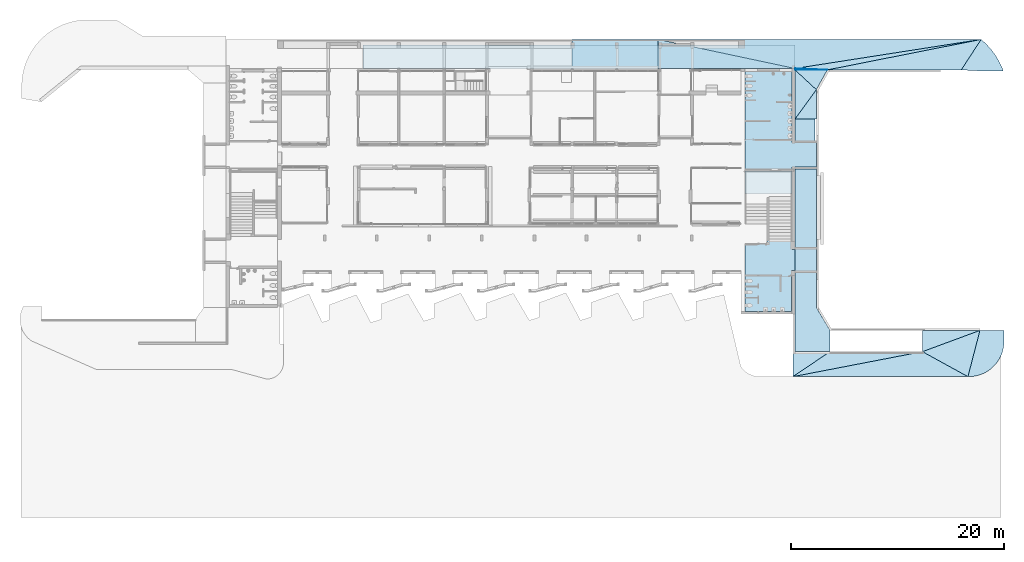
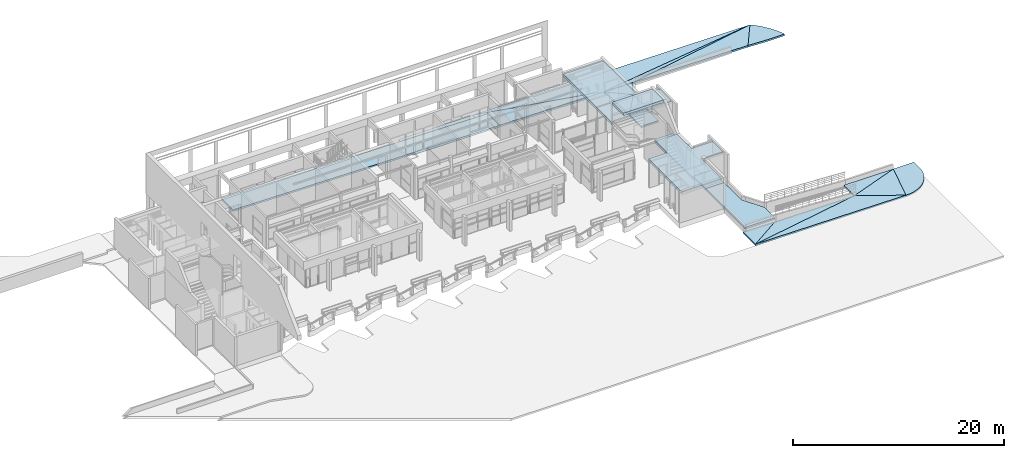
# One storey, part 46 of 117: 23 slabs, 5 elements without a shape of their own.
"""IFC4 building model written with IfcOpenShell, lengths in metres."""

from ifc_helpers import new_model, entity, si_unit, converted_unit, derived_unit, direction, frame, origin, place, context, subcontext, project, spatial, line, arc, indexed_curve, outline, extrude, material, constituent, constituent_set, type_object, element, aggregate, save


model = new_model("IFC4")

# Units and contexts
model_context = context("Model", 3, precision=1e-05, world=origin(), true_north=direction((6.123031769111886e-17, 1.0)))
body_context = subcontext(model_context, "Body", "Model", "MODEL_VIEW")
ifc_project = project(units=[si_unit("LENGTHUNIT", "METRE"), si_unit("AREAUNIT", "SQUARE_METRE"), si_unit("VOLUMEUNIT", "CUBIC_METRE"), converted_unit("PLANEANGLEUNIT", "DEGREE", entity("IfcRatioMeasure", 0.017453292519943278), si_unit("PLANEANGLEUNIT", "RADIAN"), dimensions=[0, 0, 0, 0, 0, 0, 0]), si_unit("MASSUNIT", "GRAM", prefix="KILO"), derived_unit("MASSDENSITYUNIT", [(si_unit("MASSUNIT", "GRAM", prefix="KILO"), 1), (si_unit("LENGTHUNIT", "METRE"), -3)]), derived_unit("MOMENTOFINERTIAUNIT", [(si_unit("LENGTHUNIT", "METRE"), 4)]), si_unit("TIMEUNIT", "SECOND"), si_unit("FREQUENCYUNIT", "HERTZ"), si_unit("THERMODYNAMICTEMPERATUREUNIT", "DEGREE_CELSIUS"), derived_unit("THERMALTRANSMITTANCEUNIT", [(si_unit("MASSUNIT", "GRAM", prefix="KILO"), 1), (si_unit("THERMODYNAMICTEMPERATUREUNIT", "KELVIN"), -1), (si_unit("TIMEUNIT", "SECOND"), -3)]), derived_unit("VOLUMETRICFLOWRATEUNIT", [(si_unit("LENGTHUNIT", "METRE"), 3), (si_unit("TIMEUNIT", "SECOND"), -1)]), derived_unit("MASSFLOWRATEUNIT", [(si_unit("MASSUNIT", "GRAM", prefix="KILO"), 1), (si_unit("TIMEUNIT", "SECOND"), -1)]), derived_unit("ROTATIONALFREQUENCYUNIT", [(si_unit("TIMEUNIT", "SECOND"), -1)]), si_unit("ELECTRICCURRENTUNIT", "AMPERE"), si_unit("ELECTRICVOLTAGEUNIT", "VOLT"), si_unit("POWERUNIT", "WATT"), si_unit("FORCEUNIT", "NEWTON", prefix="KILO"), si_unit("ILLUMINANCEUNIT", "LUX"), si_unit("LUMINOUSFLUXUNIT", "LUMEN"), si_unit("LUMINOUSINTENSITYUNIT", "CANDELA"), derived_unit("USERDEFINED", [(si_unit("MASSUNIT", "GRAM", prefix="KILO"), -1), (si_unit("LENGTHUNIT", "METRE"), -2), (si_unit("TIMEUNIT", "SECOND"), 3), (si_unit("LUMINOUSFLUXUNIT", "LUMEN"), 1)]), derived_unit("SOUNDPOWERUNIT", [(si_unit("MASSUNIT", "GRAM", prefix="KILO"), 1), (si_unit("LENGTHUNIT", "METRE"), 2), (si_unit("TIMEUNIT", "SECOND"), -3)]), derived_unit("SOUNDPRESSUREUNIT", [(si_unit("MASSUNIT", "GRAM", prefix="KILO"), 1), (si_unit("LENGTHUNIT", "METRE"), -1), (si_unit("TIMEUNIT", "SECOND"), -2)]), derived_unit("LINEARVELOCITYUNIT", [(si_unit("LENGTHUNIT", "METRE"), 1), (si_unit("TIMEUNIT", "SECOND"), -1)]), si_unit("PRESSUREUNIT", "PASCAL"), derived_unit("USERDEFINED", [(si_unit("LENGTHUNIT", "METRE"), -2), (si_unit("MASSUNIT", "GRAM", prefix="KILO"), 1), (si_unit("TIMEUNIT", "SECOND"), -2)]), derived_unit("LINEARFORCEUNIT", [(si_unit("MASSUNIT", "GRAM", prefix="KILO"), 1), (si_unit("LENGTHUNIT", "METRE"), 1), (si_unit("TIMEUNIT", "SECOND"), -2), (si_unit("LENGTHUNIT", "METRE"), -1)]), derived_unit("PLANARFORCEUNIT", [(si_unit("MASSUNIT", "GRAM", prefix="KILO"), 1), (si_unit("LENGTHUNIT", "METRE"), 1), (si_unit("TIMEUNIT", "SECOND"), -2), (si_unit("LENGTHUNIT", "METRE"), -2)])], contexts=[model_context])

# Site, building, storey
site_placement = place(None, origin())
site = spatial("IfcSite", under=ifc_project, at=site_placement, Name="Superficie", CompositionType="ELEMENT")
building_placement = place(site_placement, origin())
building = spatial("IfcBuilding", under=site, at=building_placement, CompositionType="ELEMENT")
storey_placement = place(building_placement, origin())
storey = spatial("IfcBuildingStorey", under=building, at=storey_placement, Name="Nivel 0", CompositionType="ELEMENT", Elevation=0.0)

# Slabs
ifc_material_1 = material(Name="Suelos por defecto", Category="Genérico")
slab_type_1 = type_object("IfcSlabType", Name="Suelo:Por defecto - 20 cm 2", PredefinedType="FLOOR", material=ifc_material_1)
slab_1_placement = place(storey_placement, origin())
element("IfcSlab", 1, at=slab_1_placement, inside=storey, type_object=slab_type_1, material=ifc_material_1, Name="Suelo:Por defecto - 20 cm 2", ObjectType="Suelo:Por defecto - 20 cm 2", PredefinedType="FLOOR", context=body_context, shape_type="SweptSolid", body=[
    extrude(outline(indexed_curve([(-1.1749848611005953, -0.9999999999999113), (1.1749848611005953, -0.9999999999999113), (1.1749848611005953, 0.9999999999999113), (-1.1749848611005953, 0.9999999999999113), (-1.1749848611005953, -0.9999999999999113)], self_intersect=False)), frame((26.67679901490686, -5.139155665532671, -0.13922966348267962), z_axis=(0.0, 0.0, -1.0), x_axis=(0.0, 1.0, 0.0)), (0.0, 0.0, 1.0), 0.2),
])
slab_type_2 = type_object("IfcSlabType", Name="Suelo:Por defecto - 20 cm 2", PredefinedType="FLOOR", material=ifc_material_1)
slab_2_placement = place(storey_placement, origin())
element("IfcSlab", 2, at=slab_2_placement, inside=storey, type_object=slab_type_2, material=ifc_material_1, Name="Suelo:Por defecto - 20 cm 2", ObjectType="Suelo:Por defecto - 20 cm 2", PredefinedType="FLOOR", context=body_context, shape_type="SweptSolid", body=[
    extrude(outline(indexed_curve([(0.19998911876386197, -20.335522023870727), (0.400010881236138, -20.335522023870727), (-0.19998911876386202, 20.335522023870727), (-0.400010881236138, 20.335522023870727), (0.19998911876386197, -20.335522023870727)], self_intersect=False)), frame((5.3412769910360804, 12.870829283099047, -0.400010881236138), z_axis=(0.0, 1.0, 0.0), x_axis=(0.0, 0.0, 1.0)), (0.0, 0.0, 1.0), 2.2346296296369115),
])

slab_3_placement = place(storey_placement, origin())
slab_3 = element("IfcSlab", 3, at=slab_3_placement, inside=storey, Name="Suelo:Por defecto - 20 cm 2", ObjectType="Suelo:Por defecto - 20 cm 2", PredefinedType="NOTDEFINED")
slab_type_3 = type_object("IfcSlabType", Name="Suelo:Por defecto - 20 cm 2", PredefinedType="FLOOR")
slab_4_placement = place(storey_placement, origin())
slab_4 = element("IfcSlab", 4, at=slab_4_placement, type_object=slab_type_3, material=ifc_material_1, Name="Suelo:Por defecto - 20 cm 2", ObjectType="Suelo:Por defecto - 20 cm 2", PredefinedType="FLOOR", context=body_context, shape_type="SweptSolid", body=[
    extrude(outline(indexed_curve([(4.054520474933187, -1.36572885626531), (4.054520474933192, 1.3657288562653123), (-4.054520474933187, 1.3657288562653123), (-4.054520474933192, -1.36572885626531), (4.054520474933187, -1.36572885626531)], self_intersect=False)), frame((8.750263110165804, 14.250277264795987, -0.41), z_axis=(0.002466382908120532, 0.0, 0.9999969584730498), x_axis=(0.9999969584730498, 0.0, -0.002466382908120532)), (0.002466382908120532, 0.0, -0.9999969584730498), 0.19999999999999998),
])
slab_type_4 = type_object("IfcSlabType", Name="Suelo:Por defecto - 20 cm 2", PredefinedType="FLOOR")
slab_5_placement = place(storey_placement, origin())
slab_5 = element("IfcSlab", 5, at=slab_5_placement, type_object=slab_type_4, material=ifc_material_1, Name="Suelo:Por defecto - 20 cm 2", ObjectType="Suelo:Por defecto - 20 cm 2", PredefinedType="FLOOR", context=body_context, shape_type="SweptSolid", body=[
    extrude(outline(indexed_curve([(-6.436208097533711, -1.365728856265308), (6.436208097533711, -1.3657288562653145), (-6.436208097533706, 1.3657288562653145), (-6.436208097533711, -1.365728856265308)], self_intersect=False)), frame((19.240785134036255, 14.250277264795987, -0.47), z_axis=(0.007768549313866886, 0.0, 0.9999698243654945), x_axis=(0.9999698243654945, 0.0, -0.007768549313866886)), (0.007768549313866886, 0.0, -0.9999698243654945), 0.19999999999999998),
])
slab_type_5 = type_object("IfcSlabType", Name="Suelo:Por defecto - 20 cm 2", PredefinedType="FLOOR")
slab_6_placement = place(storey_placement, origin())
slab_6 = element("IfcSlab", 6, at=slab_6_placement, type_object=slab_type_5, material=ifc_material_1, Name="Suelo:Por defecto - 20 cm 2", ObjectType="Suelo:Por defecto - 20 cm 2", PredefinedType="FLOOR", context=body_context, shape_type="SweptSolid", body=[
    extrude(outline(indexed_curve([(-15.191614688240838, 0.0007822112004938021), (-2.319361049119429, -2.731441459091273), (15.191614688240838, -0.0007822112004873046), (-15.191614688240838, 0.0007822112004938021)], self_intersect=False)), frame((27.996119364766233, 15.616006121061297, -0.5099999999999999), z_axis=(0.005924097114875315, -0.008691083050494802, 0.9999446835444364), x_axis=(0.9999824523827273, 5.1487723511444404e-05, -0.005923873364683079)), (0.005923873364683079, -0.008691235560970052, -0.9999446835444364), 0.19999999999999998),
])
slab_type_6 = type_object("IfcSlabType", Name="Suelo:Por defecto - 20 cm 2", PredefinedType="FLOOR")
slab_7_placement = place(storey_placement, origin())
slab_7 = element("IfcSlab", 7, at=slab_7_placement, type_object=slab_type_6, material=ifc_material_1, Name="Suelo:Por defecto - 20 cm 2", ObjectType="Suelo:Por defecto - 20 cm 2", PredefinedType="FLOOR", context=body_context, shape_type="SweptSolid", body=[
    extrude(outline(indexed_curve([(-7.240707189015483, -1.4342161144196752), (5.370347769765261, -1.4350629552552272), (7.240707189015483, 1.434216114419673), (-7.240707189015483, -1.4342161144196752)], self_intersect=False)), frame((35.94713324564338, 14.181335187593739, -0.536), z_axis=(0.01014960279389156, -0.006615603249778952, 0.9999266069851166), x_axis=(0.9999484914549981, 6.714920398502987e-05, -0.01014938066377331)), (0.01014938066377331, -0.006615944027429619, -0.9999266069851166), 0.19999999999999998),
])
slab_type_7 = type_object("IfcSlabType", Name="Suelo:Por defecto - 20 cm 2", PredefinedType="FLOOR")
slab_8_placement = place(storey_placement, origin())
slab_8 = element("IfcSlab", 8, at=slab_8_placement, type_object=slab_type_7, material=ifc_material_1, Name="Suelo:Por defecto - 20 cm 2", ObjectType="Suelo:Por defecto - 20 cm 2", PredefinedType="FLOOR", context=body_context, shape_type="SweptSolid", body=[
    extrude(outline(indexed_curve([(-2.053775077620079, -1.3772061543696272), (-0.13418045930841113, -1.4758158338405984), (1.9072151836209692, -1.4758158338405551), (1.0575513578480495, 0.1460175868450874), (-0.18351199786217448, 1.492135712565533)], segments=[line(1, 2, 3), arc(3, 4, 5), line(5, 1)], self_intersect=False)), frame((43.370979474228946, 14.123870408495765, -0.5999999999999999)), (0.0, 0.0, -1.0), 0.19999999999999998),
])
slab_type_8 = type_object("IfcSlabType", Name="Suelo:Por defecto - 20 cm 2", PredefinedType="FLOOR")
slab_9_placement = place(storey_placement, origin())
slab_9 = element("IfcSlab", 9, at=slab_9_placement, type_object=slab_type_8, material=ifc_material_1, Name="Suelo:Por defecto - 20 cm 2", ObjectType="Suelo:Por defecto - 20 cm 2", PredefinedType="FLOOR", context=body_context, shape_type="SweptSolid", body=[
    extrude(outline(indexed_curve([(-1.5151900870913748, 0.06894207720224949), (-1.5151900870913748, -0.06894207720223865), (1.5151900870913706, -0.06894207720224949), (-1.5151900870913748, 0.06894207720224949)], self_intersect=False)), frame((27.191799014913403, 12.815606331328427, -0.49599999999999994), z_axis=(-0.015839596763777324, 0.0, 0.999874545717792), x_axis=(0.999874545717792, 0.0, 0.015839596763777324)), (-0.015839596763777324, 0.0, -0.999874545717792), 0.19999999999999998),
])
slab_type_9 = type_object("IfcSlabType", Name="Suelo:Por defecto - 20 cm 2", PredefinedType="FLOOR")
slab_10_placement = place(storey_placement, origin())
slab_10 = element("IfcSlab", 10, at=slab_10_placement, type_object=slab_type_9, material=ifc_material_1, Name="Suelo:Por defecto - 20 cm 2", ObjectType="Suelo:Por defecto - 20 cm 2", PredefinedType="FLOOR", context=body_context, shape_type="SweptSolid", body=[
    extrude(outline(indexed_curve([(-8.755880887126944, -1.3628069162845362), (-5.725691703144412, -1.5048264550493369), (8.75588088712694, 1.3628069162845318), (-8.755880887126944, -1.3628069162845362)], self_intersect=False)), frame((34.43213324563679, 14.250277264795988, -0.5600000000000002), z_axis=(-0.011174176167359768, 0.10077221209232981, 0.994846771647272), x_axis=(0.9999375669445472, 0.0011261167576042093, 0.011117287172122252)), (-0.011117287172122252, 0.10077850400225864, -0.994846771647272), 0.19999999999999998),
])
slab_type_10 = type_object("IfcSlabType", Name="Suelo:Por defecto - 20 cm 2", PredefinedType="FLOOR")
slab_11_placement = place(storey_placement, origin())
slab_11 = element("IfcSlab", 11, at=slab_11_placement, type_object=slab_type_10, material=ifc_material_1, Name="Suelo:Por defecto - 20 cm 2", ObjectType="Suelo:Por defecto - 20 cm 2", PredefinedType="FLOOR", context=body_context, shape_type="SweptSolid", body=[
    extrude(outline(indexed_curve([(-1.6974636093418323, -2.1745782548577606), (0.7622249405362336, -1.1652337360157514), (1.6925363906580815, 1.325421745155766), (1.6925363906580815, 2.1754217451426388), (-0.5674636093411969, 2.175421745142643)], segments=[arc(1, 2, 3), line(3, 4, 5, 1)], self_intersect=False)), frame((43.64426262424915, -13.93959254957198, -0.65)), (0.0, 0.0, -1.0), 0.19999999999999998),
])
slab_type_11 = type_object("IfcSlabType", Name="Suelo:Por defecto - 20 cm 2", PredefinedType="FLOOR")
slab_12_placement = place(storey_placement, origin())
slab_12 = element("IfcSlab", 12, at=slab_12_placement, type_object=slab_type_11, material=ifc_material_1, Name="Suelo:Por defecto - 20 cm 2", ObjectType="Suelo:Por defecto - 20 cm 2", PredefinedType="FLOOR", context=body_context, shape_type="SweptSolid", body=[
    extrude(outline(indexed_curve([(-8.235133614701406, -1.1751311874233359), (8.23516996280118, -1.174876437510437), (3.9550910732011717, 1.1750649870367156), (-8.235133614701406, -1.1751311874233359)], self_intersect=False)), frame((33.711780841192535, -14.939170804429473, -0.6029932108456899), z_axis=(0.0060715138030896, 0.002547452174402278, 0.999978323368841), x_axis=(0.9999815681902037, -1.5467176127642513e-05, -0.006071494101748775)), (0.006071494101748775, 0.002547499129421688, -0.999978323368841), 0.19999999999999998),
])
slab_type_12 = type_object("IfcSlabType", Name="Suelo:Por defecto - 20 cm 2", PredefinedType="FLOOR")
slab_13_placement = place(storey_placement, origin())
slab_13 = element("IfcSlab", 13, at=slab_13_placement, type_object=slab_type_12, material=ifc_material_1, Name="Suelo:Por defecto - 20 cm 2", ObjectType="Suelo:Por defecto - 20 cm 2", PredefinedType="FLOOR", context=body_context, shape_type="SweptSolid", body=[
    extrude(outline(indexed_curve([(2.705018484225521, 0.9999999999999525), (-2.705018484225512, 0.9999999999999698), (-2.7050184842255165, -0.9999999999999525), (2.705018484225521, 0.9999999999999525)], self_intersect=False)), frame((40.37179901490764, -12.76417080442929, -0.64), z_axis=(0.00369683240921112, 0.0, 0.9999931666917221), x_axis=(0.9999931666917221, 0.0, -0.00369683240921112)), (0.00369683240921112, 0.0, -0.9999931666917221), 0.19999999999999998),
])
slab_type_13 = type_object("IfcSlabType", Name="Suelo:Por defecto - 20 cm 2", PredefinedType="FLOOR")
slab_14_placement = place(storey_placement, origin())
slab_14 = element("IfcSlab", 14, at=slab_14_placement, type_object=slab_type_13, material=ifc_material_1, Name="Suelo:Por defecto - 20 cm 2", ObjectType="Suelo:Por defecto - 20 cm 2", PredefinedType="FLOOR", context=body_context, shape_type="SweptSolid", body=[
    extrude(outline(indexed_curve([(-1.7430711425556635, 1.175000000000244), (-1.7430711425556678, -1.1750000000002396), (1.7430711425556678, 1.175000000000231), (-1.7430711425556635, 1.175000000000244)], self_intersect=False)), frame((27.219690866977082, -14.939170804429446, -0.5750000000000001), z_axis=(0.01434250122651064, 0.0, 0.9998971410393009), x_axis=(0.9998971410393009, 0.0, -0.01434250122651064)), (0.01434250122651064, 0.0, -0.9998971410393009), 0.19999999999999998),
])
slab_type_14 = type_object("IfcSlabType", Name="Suelo:Por defecto - 20 cm 2", PredefinedType="FLOOR")
slab_15_placement = place(storey_placement, origin())
slab_15 = element("IfcSlab", 15, at=slab_15_placement, type_object=slab_type_14, material=ifc_material_1, Name="Suelo:Por defecto - 20 cm 2", ObjectType="Suelo:Por defecto - 20 cm 2", PredefinedType="FLOOR", context=body_context, shape_type="SweptSolid", body=[
    extrude(outline(indexed_curve([(1.7256697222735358, -2.77005284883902), (2.8556791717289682, 1.5799446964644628), (-2.554366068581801, -0.42003292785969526), (1.7256697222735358, -2.77005284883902)], self_intersect=False)), frame((40.221143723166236, -13.344127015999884, -0.64), z_axis=(0.004089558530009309, -0.0010623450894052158, 0.9999910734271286), x_axis=(0.999991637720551, 4.344558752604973e-06, -0.004089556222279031)), (0.004089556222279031, -0.0010623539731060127, -0.9999910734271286), 0.19999999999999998),
])
slab_type_15 = type_object("IfcSlabType", Name="Suelo:Por defecto - 20 cm 2", PredefinedType="FLOOR")
slab_16_placement = place(storey_placement, origin())
slab_16 = element("IfcSlab", 16, at=slab_16_placement, type_object=slab_type_15, material=ifc_material_1, Name="Suelo:Por defecto - 20 cm 2", ObjectType="Suelo:Por defecto - 20 cm 2", PredefinedType="FLOOR", context=body_context, shape_type="SweptSolid", body=[
    extrude(outline(indexed_curve([(-5.9390077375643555, -1.9845144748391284), (6.251064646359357, 0.3664715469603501), (-2.453203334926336, 0.3659866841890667), (-5.9390077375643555, -1.9845144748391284)], self_intersect=False)), frame((31.415771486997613, -14.130246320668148, -0.6025378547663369), z_axis=(0.0034461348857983, 0.016161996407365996, 0.9998634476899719), x_axis=(0.9999940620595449, -5.569675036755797e-05, -0.0034456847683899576)), (0.0034456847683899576, 0.01616209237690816, -0.9998634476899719), 0.19999999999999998),
])
aggregate(slab_3, [slab_4, slab_5, slab_6, slab_7, slab_8, slab_9, slab_10, slab_11, slab_12, slab_13, slab_14, slab_15, slab_16])

# Roof, slab
roof_1_placement = place(storey_placement, frame((20.98679901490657, 3.3608292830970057, 3.0)))
roof_1 = element("IfcRoof", 17, at=roof_1_placement, inside=storey, Name="Cubierta básica:Plana tradicional transitable - 30 cm 2", ObjectType="Cubierta básica:Plana tradicional transitable - 30 cm 2", PredefinedType="NOTDEFINED")
ifc_material_2 = material(Name="Cerámica blanca", Category="Cerámica")
ifc_constituent_1 = constituent(ifc_material_2, Name="Cerámica blanca", Category="Cerámica")
ifc_material_3 = material(Name="Hormigón y arena", Category="Hormigón")
ifc_constituent_2 = constituent(ifc_material_3, Name="Hormigón y arena", Category="Hormigón")
ifc_material_4 = material(Name="Aislamiento térmico", Category="Varios")
ifc_constituent_3 = constituent(ifc_material_4, Name="Aislamiento térmico", Category="Varios")
ifc_material_5 = material(Name="Hormigón", Category="Hormigón")
ifc_constituent_4 = constituent(ifc_material_5, Name="Hormigón", Category="Hormigón")
ifc_constituent_set = constituent_set(constituents=[ifc_constituent_1, ifc_constituent_2, ifc_constituent_3, ifc_constituent_4], Name="Cubierta básica:Plana tradicional transitable - 30 cm 2")
slab_type_16 = type_object("IfcSlabType", Name="Cubierta básica:Plana tradicional transitable - 30 cm 2", PredefinedType="ROOF")
slab_17_placement = place(roof_1_placement, origin())
slab_17 = element("IfcSlab", 18, at=slab_17_placement, type_object=slab_type_16, material=ifc_constituent_set, Name="Cubierta básica:Plana tradicional transitable - 30 cm 2", ObjectType="Cubierta básica:Plana tradicional transitable - 30 cm 2", PredefinedType="ROOF", context=body_context, shape_type="SweptSolid", body=[
    extrude(outline(indexed_curve([(-3.3450000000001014, 4.611859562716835), (-3.3450000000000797, -4.611859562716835), (1.0450000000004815, -4.611859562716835), (1.0450000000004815, -4.366859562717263), (3.3450000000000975, -4.366859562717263), (3.3450000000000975, -2.071859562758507), (1.0450000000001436, -2.071859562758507), (1.0450000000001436, 4.611859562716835), (-3.3450000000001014, 4.611859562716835)], self_intersect=False)), frame((3.3450000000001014, 4.611859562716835, 0.0)), (0.0, 0.0, 1.0), 0.02),
    extrude(outline(indexed_curve([(-3.3450000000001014, 4.611859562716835), (-3.3450000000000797, -4.611859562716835), (1.0450000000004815, -4.611859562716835), (1.0450000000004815, -4.366859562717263), (3.3450000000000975, -4.366859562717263), (3.3450000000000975, -2.071859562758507), (1.0450000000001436, -2.071859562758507), (1.0450000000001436, 4.611859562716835), (-3.3450000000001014, 4.611859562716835)], self_intersect=False)), frame((3.3450000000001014, 4.611859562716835, 0.019999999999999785)), (0.0, 0.0, 1.0), 0.08),
    extrude(outline(indexed_curve([(-3.3450000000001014, 4.611859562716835), (-3.3450000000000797, -4.611859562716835), (1.0450000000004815, -4.611859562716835), (1.0450000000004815, -4.366859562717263), (3.3450000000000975, -4.366859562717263), (3.3450000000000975, -2.071859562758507), (1.0450000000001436, -2.071859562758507), (1.0450000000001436, 4.611859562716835), (-3.3450000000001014, 4.611859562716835)], self_intersect=False)), frame((3.3450000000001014, 4.611859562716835, 0.1)), (0.0, 0.0, 1.0), 0.08),
    extrude(outline(indexed_curve([(-3.3450000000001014, 4.611859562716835), (-3.3450000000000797, -4.611859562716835), (1.0450000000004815, -4.611859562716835), (1.0450000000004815, -4.366859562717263), (3.3450000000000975, -4.366859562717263), (3.3450000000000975, -2.071859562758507), (1.0450000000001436, -2.071859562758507), (1.0450000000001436, 4.611859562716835), (-3.3450000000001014, 4.611859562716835)], self_intersect=False)), frame((3.3450000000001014, 4.611859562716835, 0.18000000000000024)), (0.0, 0.0, 1.0), 0.12),
])
aggregate(roof_1, [slab_17])

roof_2_placement = place(storey_placement, frame((20.986799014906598, -9.964170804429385, 3.0)))
roof_2 = element("IfcRoof", 19, at=roof_2_placement, inside=storey, Name="Cubierta básica:Plana tradicional transitable - 30 cm 2", ObjectType="Cubierta básica:Plana tradicional transitable - 30 cm 2", PredefinedType="NOTDEFINED")
slab_type_17 = type_object("IfcSlabType", Name="Cubierta básica:Plana tradicional transitable - 30 cm 2", PredefinedType="ROOF")
slab_18_placement = place(roof_2_placement, origin())
slab_18 = element("IfcSlab", 20, at=slab_18_placement, type_object=slab_type_17, material=ifc_constituent_set, Name="Cubierta básica:Plana tradicional transitable - 30 cm 2", ObjectType="Cubierta básica:Plana tradicional transitable - 30 cm 2", PredefinedType="ROOF", context=body_context, shape_type="SweptSolid", body=[
    extrude(outline(indexed_curve([(1.035000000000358, -4.289999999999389), (1.035000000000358, -0.4599697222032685), (3.3450000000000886, -0.4599697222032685), (3.3450000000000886, 1.5299999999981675), (1.0450000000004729, 1.5299999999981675), (1.0450000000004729, 1.9299999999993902), (1.0450000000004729, 4.28999999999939), (-1.310000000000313, 4.28999999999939), (-1.3100000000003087, 2.090000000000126), (-3.345000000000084, 2.090000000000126), (-3.345000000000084, -4.289999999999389), (1.035000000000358, -4.289999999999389)], self_intersect=False)), frame((3.345000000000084, 4.289999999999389, 0.0)), (0.0, 0.0, 1.0), 0.02),
    extrude(outline(indexed_curve([(1.035000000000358, -4.289999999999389), (1.035000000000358, -0.4599697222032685), (3.3450000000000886, -0.4599697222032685), (3.3450000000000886, 1.5299999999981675), (1.0450000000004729, 1.5299999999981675), (1.0450000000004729, 1.9299999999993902), (1.0450000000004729, 4.28999999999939), (-1.310000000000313, 4.28999999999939), (-1.3100000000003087, 2.090000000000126), (-3.345000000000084, 2.090000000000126), (-3.345000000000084, -4.289999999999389), (1.035000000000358, -4.289999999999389)], self_intersect=False)), frame((3.345000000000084, 4.289999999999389, 0.019999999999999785)), (0.0, 0.0, 1.0), 0.08),
    extrude(outline(indexed_curve([(1.035000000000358, -4.289999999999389), (1.035000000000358, -0.4599697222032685), (3.3450000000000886, -0.4599697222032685), (3.3450000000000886, 1.5299999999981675), (1.0450000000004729, 1.5299999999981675), (1.0450000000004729, 1.9299999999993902), (1.0450000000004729, 4.28999999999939), (-1.310000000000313, 4.28999999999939), (-1.3100000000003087, 2.090000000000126), (-3.345000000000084, 2.090000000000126), (-3.345000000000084, -4.289999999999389), (1.035000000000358, -4.289999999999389)], self_intersect=False)), frame((3.345000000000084, 4.289999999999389, 0.1)), (0.0, 0.0, 1.0), 0.08),
    extrude(outline(indexed_curve([(1.035000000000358, -4.289999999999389), (1.035000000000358, -0.4599697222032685), (3.3450000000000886, -0.4599697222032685), (3.3450000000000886, 1.5299999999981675), (1.0450000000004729, 1.5299999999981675), (1.0450000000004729, 1.9299999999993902), (1.0450000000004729, 4.28999999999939), (-1.310000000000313, 4.28999999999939), (-1.3100000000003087, 2.090000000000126), (-3.345000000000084, 2.090000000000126), (-3.345000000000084, -4.289999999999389), (1.035000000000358, -4.289999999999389)], self_intersect=False)), frame((3.345000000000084, 4.289999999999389, 0.18000000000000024)), (0.0, 0.0, 1.0), 0.12),
])
aggregate(roof_2, [slab_18])

roof_3_placement = place(storey_placement, frame((20.986799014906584, 1.1258292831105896, 5.429999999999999)))
roof_3 = element("IfcRoof", 21, at=roof_3_placement, inside=storey, Name="Cubierta básica:Plana tradicional transitable - 30 cm 2", ObjectType="Cubierta básica:Plana tradicional transitable - 30 cm 2", PredefinedType="NOTDEFINED")
slab_type_18 = type_object("IfcSlabType", Name="Cubierta básica:Plana tradicional transitable - 30 cm 2", PredefinedType="ROOF")
slab_19_placement = place(roof_3_placement, origin())
slab_19 = element("IfcSlab", 22, at=slab_19_placement, type_object=slab_type_18, material=ifc_constituent_set, Name="Cubierta básica:Plana tradicional transitable - 30 cm 2", ObjectType="Cubierta básica:Plana tradicional transitable - 30 cm 2", PredefinedType="ROOF", context=body_context, shape_type="SweptSolid", body=[
    extrude(outline(indexed_curve([(-2.195000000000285, 1.0600000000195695), (-2.195000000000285, -1.0600000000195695), (2.195000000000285, -1.0600000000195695), (2.195000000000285, 1.0600000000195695), (-2.195000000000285, 1.0600000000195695)], self_intersect=False)), frame((2.195000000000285, 1.0600000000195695, 0.0)), (0.0, 0.0, 1.0), 0.02),
    extrude(outline(indexed_curve([(-2.195000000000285, 1.0600000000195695), (-2.195000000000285, -1.0600000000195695), (2.195000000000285, -1.0600000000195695), (2.195000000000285, 1.0600000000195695), (-2.195000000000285, 1.0600000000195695)], self_intersect=False)), frame((2.195000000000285, 1.0600000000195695, 0.019999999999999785)), (0.0, 0.0, 1.0), 0.08),
    extrude(outline(indexed_curve([(-2.195000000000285, 1.0600000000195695), (-2.195000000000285, -1.0600000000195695), (2.195000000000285, -1.0600000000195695), (2.195000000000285, 1.0600000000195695), (-2.195000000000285, 1.0600000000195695)], self_intersect=False)), frame((2.195000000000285, 1.0600000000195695, 0.1)), (0.0, 0.0, 1.0), 0.08),
    extrude(outline(indexed_curve([(-2.195000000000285, 1.0600000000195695), (-2.195000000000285, -1.0600000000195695), (2.195000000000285, -1.0600000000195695), (2.195000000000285, 1.0600000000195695), (-2.195000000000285, 1.0600000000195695)], self_intersect=False)), frame((2.195000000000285, 1.0600000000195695, 0.18000000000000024)), (0.0, 0.0, 1.0), 0.12),
])
aggregate(roof_3, [slab_19])

# Slabs
slab_type_19 = type_object("IfcSlabType", Name="Suelo:Por defecto - 20 cm 2", PredefinedType="FLOOR", material=ifc_material_1)
slab_20_placement = place(storey_placement, origin())
element("IfcSlab", 23, at=slab_20_placement, inside=storey, type_object=slab_type_19, material=ifc_material_1, Name="Suelo:Por defecto - 20 cm 2", ObjectType="Suelo:Por defecto - 20 cm 2", PredefinedType="FLOOR", context=body_context, shape_type="SweptSolid", body=[
    extrude(outline(indexed_curve([(-4.326943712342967, -1.8299999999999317), (3.1230865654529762, -1.8299999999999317), (3.123086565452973, 0.16999999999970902), (2.458086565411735, 0.16999999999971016), (2.458086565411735, 0.1900000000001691), (-0.18151512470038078, 0.19000000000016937), (-2.3269437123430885, 1.4700000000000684), (-4.326943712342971, 1.4700000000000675), (-4.326943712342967, -1.8299999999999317)], self_intersect=False)), frame((27.506799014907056, -9.437227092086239, -0.13922966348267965), z_axis=(0.0, 0.0, -1.0), x_axis=(0.0, 1.0, 0.0)), (0.0, 0.0, 1.0), 0.2),
])
slab_type_20 = type_object("IfcSlabType", Name="Suelo:Por defecto - 20 cm 2", PredefinedType="FLOOR", material=ifc_material_1)
slab_21_placement = place(storey_placement, origin())
element("IfcSlab", 24, at=slab_21_placement, inside=storey, type_object=slab_type_20, material=ifc_material_1, Name="Suelo:Por defecto - 20 cm 2", ObjectType="Suelo:Por defecto - 20 cm 2", PredefinedType="FLOOR", context=body_context, shape_type="SweptSolid", body=[
    extrude(outline(indexed_curve([(-3.6924849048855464, -1.0099999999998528), (3.6924849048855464, -1.0099999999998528), (3.6924849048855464, 1.0099999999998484), (-3.6924849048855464, 1.0099999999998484), (-3.6924849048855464, -1.0099999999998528)], self_intersect=False)), frame((26.666799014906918, -0.26665562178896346, -0.53), z_axis=(0.0, 0.0, 1.0), x_axis=(0.0, 1.0, 0.0)), (0.0, 0.0, 1.0), 0.2),
    extrude(outline(indexed_curve([(-1.1125000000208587, -0.9450000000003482), (1.1125000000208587, -0.9450000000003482), (1.1125000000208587, 0.9450000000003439), (-1.1125000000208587, 0.9450000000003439), (-1.1125000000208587, -0.9450000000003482)], self_intersect=False)), frame((26.621799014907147, 7.0133292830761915, -0.53), z_axis=(0.0, 0.0, 1.0), x_axis=(0.0, 1.0, 0.0)), (0.0, 0.0, 1.0), 0.2),
])

slab_22_placement = place(storey_placement, frame((25.67679901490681, 8.125829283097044, -0.7200000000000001)))
slab_22 = element("IfcSlab", 25, at=slab_22_placement, inside=storey, Name="Suelo:Por defecto - 20 cm 2", ObjectType="Suelo:Por defecto - 20 cm 2", PredefinedType="NOTDEFINED")
slab_type_21 = type_object("IfcSlabType", Name="Suelo:Por defecto - 20 cm 2", PredefinedType="FLOOR")
slab_23_placement = place(slab_22_placement, origin())
slab_23 = element("IfcSlab", 26, at=slab_23_placement, type_object=slab_type_21, material=ifc_material_1, Name="Suelo:Por defecto - 20 cm 2", ObjectType="Suelo:Por defecto - 20 cm 2", PredefinedType="FLOOR", context=body_context, shape_type="SweptSolid", body=[
    extrude(outline(indexed_curve([(0.6485502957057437, -1.5749849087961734), (1.679213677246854, 0.2853705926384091), (-1.361720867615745, 0.2877064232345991), (0.6485502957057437, -1.5749849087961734)], self_intersect=False)), frame((1.3615371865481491, 4.3344875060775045, 0.2357816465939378), z_axis=(-0.016424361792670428, 0.04671031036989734, 0.9987734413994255), x_axis=(0.9998651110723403, 0.0007672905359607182, 0.016406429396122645)), (-0.016406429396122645, 0.046716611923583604, -0.9987734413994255), 0.2000000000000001),
])
slab_type_22 = type_object("IfcSlabType", Name="Suelo:Por defecto - 20 cm 2", PredefinedType="FLOOR")
slab_24_placement = place(slab_22_placement, origin())
slab_24 = element("IfcSlab", 27, at=slab_24_placement, type_object=slab_type_22, material=ifc_material_1, Name="Suelo:Por defecto - 20 cm 2", ObjectType="Suelo:Por defecto - 20 cm 2", PredefinedType="FLOOR", context=body_context, shape_type="SweptSolid", body=[
    extrude(outline(indexed_curve([(2.010471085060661, 0.4498942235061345), (4.332261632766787e-15, 2.3123697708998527), (-4.332261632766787e-15, -2.3123697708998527), (2.010471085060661, 0.4498942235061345)], self_intersect=False)), frame((0.0, 2.3104174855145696, 0.295), z_axis=(-0.02164663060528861, 0.041073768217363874, 0.9989216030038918), x_axis=(0.9997656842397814, 0.0008893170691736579, 0.021628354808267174)), (-0.021628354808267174, 0.04108339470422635, -0.9989216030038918), 0.2000000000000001),
])
slab_type_23 = type_object("IfcSlabType", Name="Suelo:Por defecto - 20 cm 2", PredefinedType="FLOOR")
slab_25_placement = place(slab_22_placement, origin())
slab_25 = element("IfcSlab", 28, at=slab_25_placement, type_object=slab_type_23, material=ifc_material_1, Name="Suelo:Por defecto - 20 cm 2", ObjectType="Suelo:Por defecto - 20 cm 2", PredefinedType="FLOOR", context=body_context, shape_type="SweptSolid", body=[
    extrude(outline(indexed_curve([(0.34786386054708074, 1.859418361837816), (-1.662136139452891, -0.9031884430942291), (0.3478638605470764, -0.9031884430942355), (0.34786386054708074, 1.859418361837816)], self_intersect=False)), frame((1.662136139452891, 0.902898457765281, 0.3671146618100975), z_axis=(0.0, 0.025338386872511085, 0.9996789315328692), x_axis=(1.0, 0.0, 0.0)), (0.0, 0.025338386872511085, -0.9996789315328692), 0.2000000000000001),
])
aggregate(slab_22, [slab_23, slab_24, slab_25])

save(model, "model.ifc")
